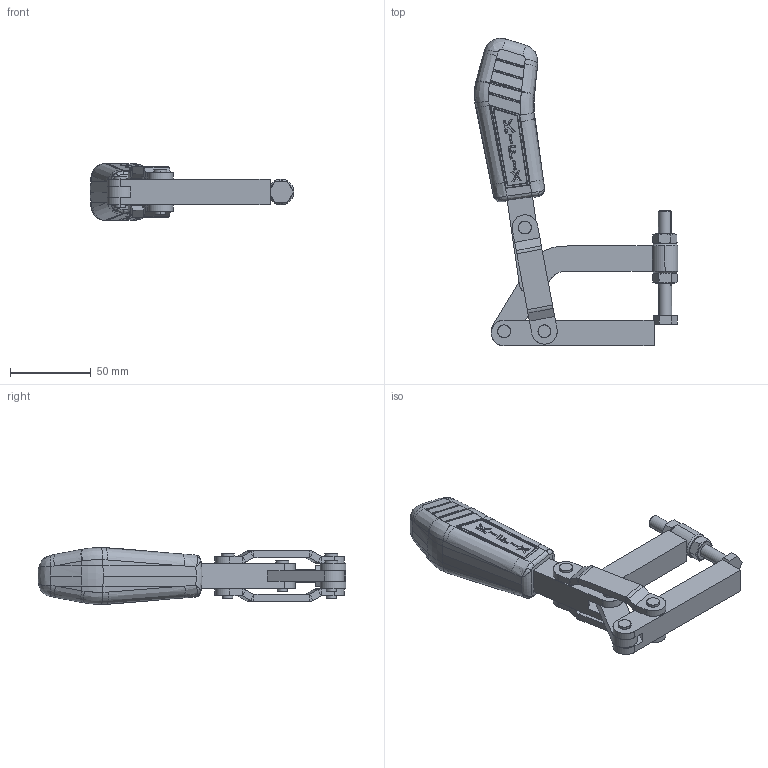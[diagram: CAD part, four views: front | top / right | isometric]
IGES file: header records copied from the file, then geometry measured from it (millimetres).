
Start section: SolidWorks IGES file using analytic representation for surfaces
Global section: file name: C:\Projetos\Grampos\KF-MP\KF-03 MP\KF-03 MP.IGS; native system: SolidWorks 2014; preprocessor: SolidWorks 2014; author: Ricardo; date: 150717.090148; units: millimetre
Bounding box: 126.35 x 190.86 x 35.04 mm (x, y, z)
Surface area: 56403.2 mm2 (no closed solid volume)
Topology: 0 solids, 0 shells, 742 faces, 8584 edges, 8554 vertices
Faces by surface type: bspline 506, revolution 236
